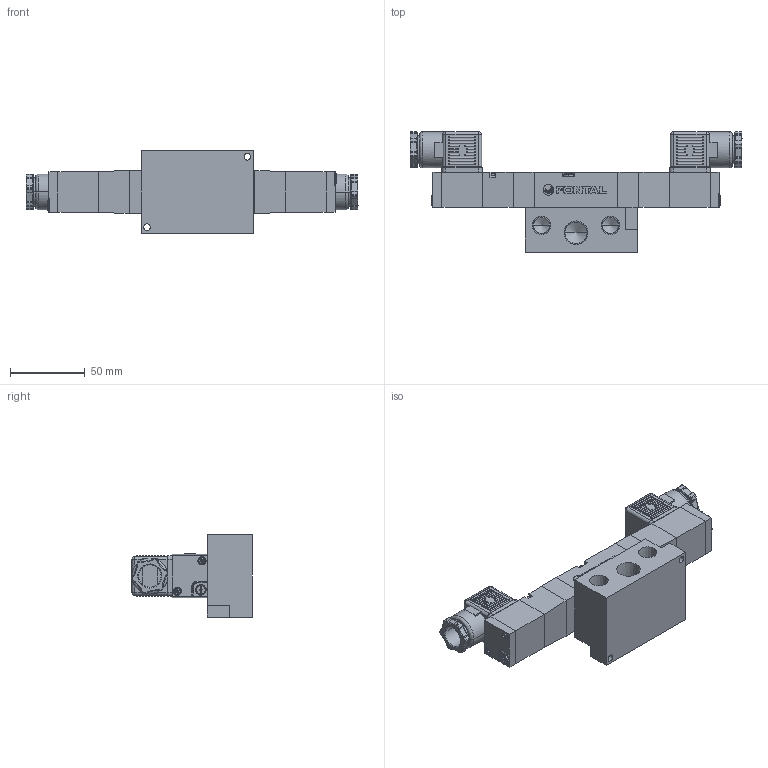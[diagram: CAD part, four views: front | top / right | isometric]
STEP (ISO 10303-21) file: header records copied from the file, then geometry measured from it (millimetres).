
FILE_DESCRIPTION (( 'STEP AP203' ), '1' );
FILE_NAME ('PCD(E¡BO)3408#-03-#C#.STEP', '2016-02-04T05:55:43', ( 'Sam Lin' ), ( '' ), 'SwSTEP 2.0', 'SolidWorks 2013', '' );
FILE_SCHEMA (( 'CONFIG_CONTROL_DESIGN' ));
Length unit declared in the file: metre
Products named in the file (13): PC08-5; PCS2406-7; PCS2406-8; PC08-1; PCS2406-9; PC08-2; PC6-M3; PC08-MARK; PCS2406-3-C; PC6-M4; PCD(E、O)3408#-03-#C#; PC08-4; PCS2406-3-小圓珠
Assembly tree (25 placements, depth 2):
  PCD(E、O)3408#-03-#C#
    PC08-1
    PC08-2
    PC08-MARK
    PC6-M4  x4
    PC08-4  x2
    PCS2406-3-小圓珠  x2
    PC08-5  x2
    PCS2406-7  x2
    PCS2406-8  x2
    PCS2406-9  x2
    PC6-M3  x4
    PCS2406-3-C  x2
Bounding box: 221.7 x 80.64 x 55 mm (x, y, z)
Volume: 284625.7 mm3; surface area: 68835.4 mm2
Topology: 31 solids, 31 shells, 1186 faces, 3047 edges, 1719 vertices
Faces by surface type: plane 420, bspline 350, cylinder 326, cone 90
Entity records: 25598 total; most frequent: CARTESIAN_POINT 10838, ORIENTED_EDGE 2816, DIRECTION 2528, EDGE_CURVE 1408, AXIS2_PLACEMENT_3D 917, VERTEX_POINT 887, VECTOR 694, LINE 694
